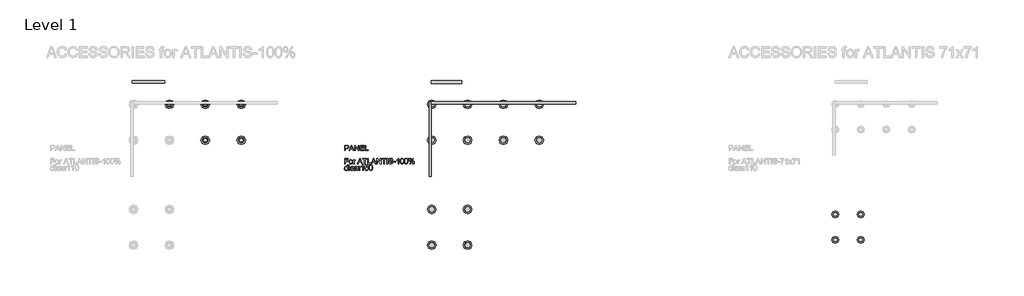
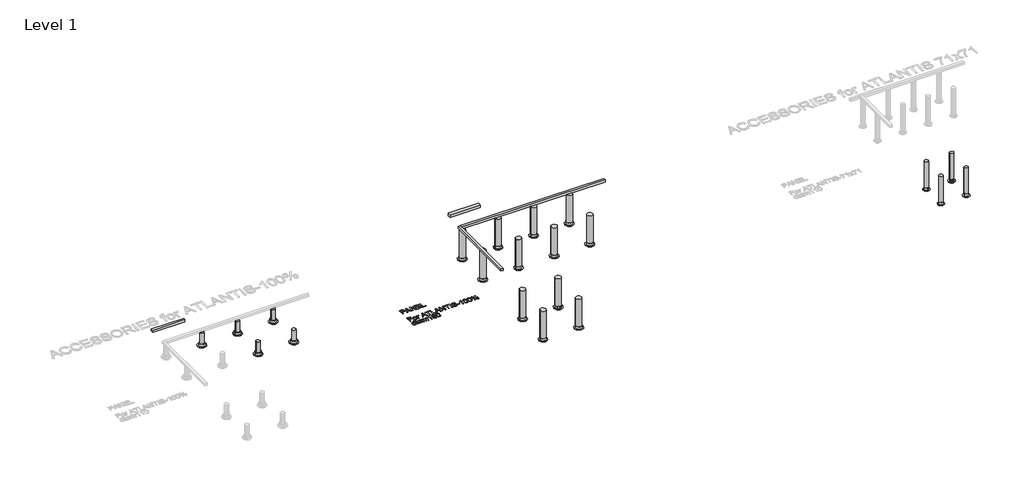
# One storey, part 2 of 6: 47 proxies.
"""IFC4 building model written with IfcOpenShell, lengths in millimetres."""

from ifc_helpers import new_model, si_unit, origin, origin_with_axes, place, context, project, spatial, polyline, outline, extrude, transform, mapped, element, save
from components import generic_models_6a19e57f, generic_models_13485cf7, generic_models_b2027c3c, generic_models_0d661f09, generic_models_739762aa, generic_models_06a1e233, generic_models_1072ffb0, generic_models_ee2e0081, generic_models_ce0de363

model = new_model("IFC4")

# Units and contexts
model_context = context("Model", 3, world=origin())
ifc_project = project(units=[si_unit("LENGTHUNIT", "METRE", prefix="MILLI")], contexts=[model_context])

# Site, building, storey
site = spatial("IfcSite", under=ifc_project)
building = spatial("IfcBuilding", under=site)
storey = spatial("IfcBuildingStorey", under=building, Name="Level 1", Elevation=0.0)

# Proxies
placement = place(None, origin())
generic_models_shape = generic_models_6a19e57f(model_context)
element("IfcBuildingElementProxy", 1, Name="Building Materials_Other_Accessory_PIPE BASE_for ATLANTIS : PIPE BASE_Ø110", ObjectType="Building Materials_Other_Accessory_PIPE BASE_for ATLANTIS : PIPE BASE_Ø110", at=placement, inside=storey, context=model_context, shape_type="MappedRepresentation", body=[
    mapped(generic_models_shape, transform((22257.4933821, -4273.7802575, 0.0), x_axis=(1.0, 0.0, 0.0), y_axis=(0.0, 1.0, 0.0), z_axis=(0.0, 0.0, 1.0))),
])
element("IfcBuildingElementProxy", 2, Name="Building Materials_Other_Accessory_PIPE BASE_for ATLANTIS : PIPE BASE_Ø110", ObjectType="Building Materials_Other_Accessory_PIPE BASE_for ATLANTIS : PIPE BASE_Ø110", at=placement, inside=storey, context=model_context, shape_type="MappedRepresentation", body=[
    mapped(generic_models_shape, transform((22967.4933821, -4273.7802575, 0.0), x_axis=(1.0, 0.0, 0.0), y_axis=(0.0, 1.0, 0.0), z_axis=(0.0, 0.0, 1.0))),
])
generic_models_2_shape = generic_models_13485cf7(model_context)
element("IfcBuildingElementProxy", 3, Name="Building Materials_Other_Accessory_PIPE BASE_for ATLANTIS : PIPE BASE_Ø160", ObjectType="Building Materials_Other_Accessory_PIPE BASE_for ATLANTIS : PIPE BASE_Ø160", at=placement, inside=storey, context=model_context, shape_type="MappedRepresentation", body=[
    mapped(generic_models_2_shape, transform((11020.4933821, -1201.7802575, 0.0), x_axis=(1.0, 0.0, 0.0), y_axis=(0.0, 1.0, 0.0), z_axis=(0.0, 0.0, 1.0))),
])
element("IfcBuildingElementProxy", 4, Name="Building Materials_Other_Accessory_PIPE BASE_for ATLANTIS : PIPE BASE_Ø160", ObjectType="Building Materials_Other_Accessory_PIPE BASE_for ATLANTIS : PIPE BASE_Ø160", at=placement, inside=storey, context=model_context, shape_type="MappedRepresentation", body=[
    mapped(generic_models_2_shape, transform((3720.4933821, -1201.7802575, 0.0), x_axis=(1.0, 0.0, 0.0), y_axis=(0.0, 1.0, 0.0), z_axis=(0.0, 0.0, 1.0))),
])
element("IfcBuildingElementProxy", 5, Name="Building Materials_Other_Accessory_PIPE BASE_for ATLANTIS : PIPE BASE_Ø160", ObjectType="Building Materials_Other_Accessory_PIPE BASE_for ATLANTIS : PIPE BASE_Ø160", at=placement, inside=storey, context=model_context, shape_type="MappedRepresentation", body=[
    mapped(generic_models_2_shape, transform((4720.4933821, -1201.7802575, 0.0), x_axis=(1.0, 0.0, 0.0), y_axis=(0.0, 1.0, 0.0), z_axis=(0.0, 0.0, 1.0))),
])
element("IfcBuildingElementProxy", 6, Name="Building Materials_Other_Accessory_PIPE BASE_for ATLANTIS : PIPE BASE_Ø160", ObjectType="Building Materials_Other_Accessory_PIPE BASE_for ATLANTIS : PIPE BASE_Ø160", at=placement, inside=storey, context=model_context, shape_type="MappedRepresentation", body=[
    mapped(generic_models_2_shape, transform((4720.4933821, -2201.7802575, 0.0), x_axis=(1.0, 0.0, 0.0), y_axis=(0.0, 1.0, 0.0), z_axis=(0.0, 0.0, 1.0))),
])
element("IfcBuildingElementProxy", 7, Name="Building Materials_Other_Accessory_PIPE BASE_for ATLANTIS : PIPE BASE_Ø160", ObjectType="Building Materials_Other_Accessory_PIPE BASE_for ATLANTIS : PIPE BASE_Ø160", at=placement, inside=storey, context=model_context, shape_type="MappedRepresentation", body=[
    mapped(generic_models_2_shape, transform((12020.4933821, -1201.7802575, 0.0), x_axis=(1.0, 0.0, 0.0), y_axis=(0.0, 1.0, 0.0), z_axis=(0.0, 0.0, 1.0))),
])
element("IfcBuildingElementProxy", 8, Name="Building Materials_Other_Accessory_PIPE BASE_for ATLANTIS : PIPE BASE_Ø160", ObjectType="Building Materials_Other_Accessory_PIPE BASE_for ATLANTIS : PIPE BASE_Ø160", at=placement, inside=storey, context=model_context, shape_type="MappedRepresentation", body=[
    mapped(generic_models_2_shape, transform((13020.4933821, -1201.7802575, 0.0), x_axis=(1.0, 0.0, 0.0), y_axis=(0.0, 1.0, 0.0), z_axis=(0.0, 0.0, 1.0))),
])
element("IfcBuildingElementProxy", 9, Name="Building Materials_Other_Accessory_PIPE BASE_for ATLANTIS : PIPE BASE_Ø160", ObjectType="Building Materials_Other_Accessory_PIPE BASE_for ATLANTIS : PIPE BASE_Ø160", at=placement, inside=storey, context=model_context, shape_type="MappedRepresentation", body=[
    mapped(generic_models_2_shape, transform((11020.4933821, -2201.7802575, 0.0), x_axis=(1.0, 0.0, 0.0), y_axis=(0.0, 1.0, 0.0), z_axis=(0.0, 0.0, 1.0))),
])
element("IfcBuildingElementProxy", 10, Name="Building Materials_Other_Accessory_PIPE BASE_for ATLANTIS : PIPE BASE_Ø160", ObjectType="Building Materials_Other_Accessory_PIPE BASE_for ATLANTIS : PIPE BASE_Ø160", at=placement, inside=storey, context=model_context, shape_type="MappedRepresentation", body=[
    mapped(generic_models_2_shape, transform((12020.4933821, -2201.7802575, 0.0), x_axis=(1.0, 0.0, 0.0), y_axis=(0.0, 1.0, 0.0), z_axis=(0.0, 0.0, 1.0))),
])
element("IfcBuildingElementProxy", 11, Name="Building Materials_Other_Accessory_PIPE BASE_for ATLANTIS : PIPE BASE_Ø160", ObjectType="Building Materials_Other_Accessory_PIPE BASE_for ATLANTIS : PIPE BASE_Ø160", at=placement, inside=storey, context=model_context, shape_type="MappedRepresentation", body=[
    mapped(generic_models_2_shape, transform((13020.4933821, -2201.7802575, 0.0), x_axis=(1.0, 0.0, 0.0), y_axis=(0.0, 1.0, 0.0), z_axis=(0.0, 0.0, 1.0))),
])
element("IfcBuildingElementProxy", 12, Name="Building Materials_Other_Accessory_PIPE BASE_for ATLANTIS : PIPE BASE_Ø160", ObjectType="Building Materials_Other_Accessory_PIPE BASE_for ATLANTIS : PIPE BASE_Ø160", at=placement, inside=storey, context=model_context, shape_type="MappedRepresentation", body=[
    mapped(generic_models_2_shape, transform((5720.4933821, -1201.7802575, 0.0), x_axis=(1.0, 0.0, 0.0), y_axis=(0.0, 1.0, 0.0), z_axis=(0.0, 0.0, 1.0))),
])
element("IfcBuildingElementProxy", 13, Name="Building Materials_Other_Accessory_PIPE BASE_for ATLANTIS : PIPE BASE_Ø160", ObjectType="Building Materials_Other_Accessory_PIPE BASE_for ATLANTIS : PIPE BASE_Ø160", at=placement, inside=storey, context=model_context, shape_type="MappedRepresentation", body=[
    mapped(generic_models_2_shape, transform((5720.4933821, -2201.7802575, 0.0), x_axis=(1.0, 0.0, 0.0), y_axis=(0.0, 1.0, 0.0), z_axis=(0.0, 0.0, 1.0))),
])
element("IfcBuildingElementProxy", 14, Name="Building Materials_Other_Accessory_PIPE BASE_for ATLANTIS : PIPE BASE_Ø160", ObjectType="Building Materials_Other_Accessory_PIPE BASE_for ATLANTIS : PIPE BASE_Ø160", at=placement, inside=storey, context=model_context, shape_type="MappedRepresentation", body=[
    mapped(generic_models_2_shape, transform((14020.4933821, -1201.7802575, 0.0), x_axis=(1.0, 0.0, 0.0), y_axis=(0.0, 1.0, 0.0), z_axis=(0.0, 0.0, 1.0))),
])
element("IfcBuildingElementProxy", 15, Name="Building Materials_Other_Accessory_PIPE BASE_for ATLANTIS : PIPE BASE_Ø160", ObjectType="Building Materials_Other_Accessory_PIPE BASE_for ATLANTIS : PIPE BASE_Ø160", at=placement, inside=storey, context=model_context, shape_type="MappedRepresentation", body=[
    mapped(generic_models_2_shape, transform((14020.4933821, -2201.7802575, 0.0), x_axis=(1.0, 0.0, 0.0), y_axis=(0.0, 1.0, 0.0), z_axis=(0.0, 0.0, 1.0))),
])
element("IfcBuildingElementProxy", 16, Name="Building Materials_Other_Accessory_PIPE BASE_for ATLANTIS : PIPE BASE_Ø160", ObjectType="Building Materials_Other_Accessory_PIPE BASE_for ATLANTIS : PIPE BASE_Ø160", at=placement, inside=storey, context=model_context, shape_type="MappedRepresentation", body=[
    mapped(generic_models_2_shape, transform((11020.4933821, -4128.7802575, 0.0), x_axis=(1.0, 0.0, 0.0), y_axis=(0.0, 1.0, 0.0), z_axis=(0.0, 0.0, 1.0))),
])
element("IfcBuildingElementProxy", 17, Name="Building Materials_Other_Accessory_PIPE BASE_for ATLANTIS : PIPE BASE_Ø160", ObjectType="Building Materials_Other_Accessory_PIPE BASE_for ATLANTIS : PIPE BASE_Ø160", at=placement, inside=storey, context=model_context, shape_type="MappedRepresentation", body=[
    mapped(generic_models_2_shape, transform((12020.4933821, -4128.7802575, 0.0), x_axis=(1.0, 0.0, 0.0), y_axis=(0.0, 1.0, 0.0), z_axis=(0.0, 0.0, 1.0))),
])
generic_models_3_shape = generic_models_b2027c3c(model_context)
element("IfcBuildingElementProxy", 18, Name="Building Materials_Other_Accessory_LEG_for ATLANTIS : LEG_Ø160", ObjectType="Building Materials_Other_Accessory_LEG_for ATLANTIS : LEG_Ø160", at=placement, inside=storey, context=model_context, shape_type="MappedRepresentation", body=[
    mapped(generic_models_3_shape, transform((11020.4933821, -1201.7802575, 0.0), x_axis=(1.0, 0.0, 0.0), y_axis=(0.0, 1.0, 0.0), z_axis=(0.0, 0.0, 1.0))),
])
element("IfcBuildingElementProxy", 19, Name="Building Materials_Other_Accessory_LEG_for ATLANTIS : LEG_Ø160", ObjectType="Building Materials_Other_Accessory_LEG_for ATLANTIS : LEG_Ø160", at=placement, inside=storey, context=model_context, shape_type="MappedRepresentation", body=[
    mapped(generic_models_3_shape, transform((12020.4933821, -1201.7802575, 0.0), x_axis=(1.0, 0.0, 0.0), y_axis=(0.0, 1.0, 0.0), z_axis=(0.0, 0.0, 1.0))),
])
element("IfcBuildingElementProxy", 20, Name="Building Materials_Other_Accessory_LEG_for ATLANTIS : LEG_Ø160", ObjectType="Building Materials_Other_Accessory_LEG_for ATLANTIS : LEG_Ø160", at=placement, inside=storey, context=model_context, shape_type="MappedRepresentation", body=[
    mapped(generic_models_3_shape, transform((13020.4933821, -1201.7802575, 0.0), x_axis=(1.0, 0.0, 0.0), y_axis=(0.0, 1.0, 0.0), z_axis=(0.0, 0.0, 1.0))),
])
element("IfcBuildingElementProxy", 21, Name="Building Materials_Other_Accessory_LEG_for ATLANTIS : LEG_Ø160", ObjectType="Building Materials_Other_Accessory_LEG_for ATLANTIS : LEG_Ø160", at=placement, inside=storey, context=model_context, shape_type="MappedRepresentation", body=[
    mapped(generic_models_3_shape, transform((11020.4933821, -2201.7802575, 0.0), x_axis=(1.0, 0.0, 0.0), y_axis=(0.0, 1.0, 0.0), z_axis=(0.0, 0.0, 1.0))),
])
element("IfcBuildingElementProxy", 22, Name="Building Materials_Other_Accessory_LEG_for ATLANTIS : LEG_Ø160", ObjectType="Building Materials_Other_Accessory_LEG_for ATLANTIS : LEG_Ø160", at=placement, inside=storey, context=model_context, shape_type="MappedRepresentation", body=[
    mapped(generic_models_3_shape, transform((12020.4933821, -2201.7802575, 0.0), x_axis=(1.0, 0.0, 0.0), y_axis=(0.0, 1.0, 0.0), z_axis=(0.0, 0.0, 1.0))),
])
element("IfcBuildingElementProxy", 23, Name="Building Materials_Other_Accessory_LEG_for ATLANTIS : LEG_Ø160", ObjectType="Building Materials_Other_Accessory_LEG_for ATLANTIS : LEG_Ø160", at=placement, inside=storey, context=model_context, shape_type="MappedRepresentation", body=[
    mapped(generic_models_3_shape, transform((13020.4933821, -2201.7802575, 0.0), x_axis=(1.0, 0.0, 0.0), y_axis=(0.0, 1.0, 0.0), z_axis=(0.0, 0.0, 1.0))),
])
element("IfcBuildingElementProxy", 24, Name="Building Materials_Other_Accessory_LEG_for ATLANTIS : LEG_Ø160", ObjectType="Building Materials_Other_Accessory_LEG_for ATLANTIS : LEG_Ø160", at=placement, inside=storey, context=model_context, shape_type="MappedRepresentation", body=[
    mapped(generic_models_3_shape, transform((14020.4933821, -1201.7802575, 0.0), x_axis=(1.0, 0.0, 0.0), y_axis=(0.0, 1.0, 0.0), z_axis=(0.0, 0.0, 1.0))),
])
element("IfcBuildingElementProxy", 25, Name="Building Materials_Other_Accessory_LEG_for ATLANTIS : LEG_Ø160", ObjectType="Building Materials_Other_Accessory_LEG_for ATLANTIS : LEG_Ø160", at=placement, inside=storey, context=model_context, shape_type="MappedRepresentation", body=[
    mapped(generic_models_3_shape, transform((14020.4933821, -2201.7802575, 0.0), x_axis=(1.0, 0.0, 0.0), y_axis=(0.0, 1.0, 0.0), z_axis=(0.0, 0.0, 1.0))),
])
element("IfcBuildingElementProxy", 26, Name="Building Materials_Other_Accessory_LEG_for ATLANTIS : LEG_Ø160", ObjectType="Building Materials_Other_Accessory_LEG_for ATLANTIS : LEG_Ø160", at=placement, inside=storey, context=model_context, shape_type="MappedRepresentation", body=[
    mapped(generic_models_3_shape, transform((11020.4933821, -4128.7802575, 0.0), x_axis=(1.0, 0.0, 0.0), y_axis=(0.0, 1.0, 0.0), z_axis=(0.0, 0.0, 1.0))),
])
element("IfcBuildingElementProxy", 27, Name="Building Materials_Other_Accessory_LEG_for ATLANTIS : LEG_Ø160", ObjectType="Building Materials_Other_Accessory_LEG_for ATLANTIS : LEG_Ø160", at=placement, inside=storey, context=model_context, shape_type="MappedRepresentation", body=[
    mapped(generic_models_3_shape, transform((12020.4933821, -5128.7802575, 0.0), x_axis=(-1.0, 0.0, 0.0), y_axis=(0.0, -1.0, 0.0), z_axis=(0.0, 0.0, 1.0))),
])
generic_models_4_shape = generic_models_0d661f09(model_context)
element("IfcBuildingElementProxy", 28, Name="Building Materials_Other_Accessory_LEG_for ATLANTIS : LEG_Ø110", ObjectType="Building Materials_Other_Accessory_LEG_for ATLANTIS : LEG_Ø110", at=placement, inside=storey, context=model_context, shape_type="MappedRepresentation", body=[
    mapped(generic_models_4_shape, transform((3720.4933821, -1201.7802575, 0.0), x_axis=(1.0, 0.0, 0.0), y_axis=(0.0, 1.0, 0.0), z_axis=(0.0, 0.0, 1.0))),
])
element("IfcBuildingElementProxy", 29, Name="Building Materials_Other_Accessory_LEG_for ATLANTIS : LEG_Ø110", ObjectType="Building Materials_Other_Accessory_LEG_for ATLANTIS : LEG_Ø110", at=placement, inside=storey, context=model_context, shape_type="MappedRepresentation", body=[
    mapped(generic_models_4_shape, transform((4720.4933821, -1201.7802575, 0.0), x_axis=(1.0, 0.0, 0.0), y_axis=(0.0, 1.0, 0.0), z_axis=(0.0, 0.0, 1.0))),
])
element("IfcBuildingElementProxy", 30, Name="Building Materials_Other_Accessory_LEG_for ATLANTIS : LEG_Ø110", ObjectType="Building Materials_Other_Accessory_LEG_for ATLANTIS : LEG_Ø110", at=placement, inside=storey, context=model_context, shape_type="MappedRepresentation", body=[
    mapped(generic_models_4_shape, transform((4720.4933821, -2201.7802575, 0.0), x_axis=(1.0, 0.0, 0.0), y_axis=(0.0, 1.0, 0.0), z_axis=(0.0, 0.0, 1.0))),
])
element("IfcBuildingElementProxy", 31, Name="Building Materials_Other_Accessory_LEG_for ATLANTIS : LEG_Ø110", ObjectType="Building Materials_Other_Accessory_LEG_for ATLANTIS : LEG_Ø110", at=placement, inside=storey, context=model_context, shape_type="MappedRepresentation", body=[
    mapped(generic_models_4_shape, transform((5720.4933821, -1201.7802575, 0.0), x_axis=(1.0, 0.0, 0.0), y_axis=(0.0, 1.0, 0.0), z_axis=(0.0, 0.0, 1.0))),
])
element("IfcBuildingElementProxy", 32, Name="Building Materials_Other_Accessory_LEG_for ATLANTIS : LEG_Ø110", ObjectType="Building Materials_Other_Accessory_LEG_for ATLANTIS : LEG_Ø110", at=placement, inside=storey, context=model_context, shape_type="MappedRepresentation", body=[
    mapped(generic_models_4_shape, transform((5720.4933821, -2201.7802575, 0.0), x_axis=(1.0, 0.0, 0.0), y_axis=(0.0, 1.0, 0.0), z_axis=(0.0, 0.0, 1.0))),
])
generic_models_5_shape = generic_models_739762aa(model_context)
element("IfcBuildingElementProxy", 33, Name="Building-Materials_Other_Daliform_Simple-Family_Accessory_PANEL_for ATLANTIS : PANEL_ATLANTIS-100_diam110_6.5x90x6.5", ObjectType="Building-Materials_Other_Daliform_Simple-Family_Accessory_PANEL_for ATLANTIS : PANEL_ATLANTIS-100_diam110_6.5x90x6.5", at=placement, inside=storey, context=model_context, shape_type="MappedRepresentation", body=[
    mapped(generic_models_5_shape, transform((11012.4933821, -1128.7802575, 880.0), x_axis=(1.0, 0.0, 0.0), y_axis=(0.0, 1.0, 0.0), z_axis=(0.0, 0.0, 1.0))),
])
generic_models_6_shape = generic_models_06a1e233(model_context)
element("IfcBuildingElementProxy", 34, Name="Building-Materials_Other_Daliform_Simple-Family_Accessory_PANEL_for ATLANTIS : PANEL_ATLANTIS-100_diam110_6.5x90x6.5", ObjectType="Building-Materials_Other_Daliform_Simple-Family_Accessory_PANEL_for ATLANTIS : PANEL_ATLANTIS-100_diam110_6.5x90x6.5", at=placement, inside=storey, context=model_context, shape_type="MappedRepresentation", body=[
    mapped(generic_models_6_shape, transform((2687.4933821, -543.7802575, 380.0), x_axis=(1.0, 0.0, 0.0), y_axis=(0.0, 1.0, 0.0), z_axis=(0.0, 0.0, 1.0))),
])
generic_models_7_shape = generic_models_1072ffb0(model_context)
element("IfcBuildingElementProxy", 35, Name="Building-Materials_Other_Daliform_Simple-Family_Accessory_PANEL_for ATLANTIS : PANEL_ATLANTIS-100_diam110_6.5x90x6.5", ObjectType="Building-Materials_Other_Daliform_Simple-Family_Accessory_PANEL_for ATLANTIS : PANEL_ATLANTIS-100_diam110_6.5x90x6.5", at=placement, inside=storey, context=model_context, shape_type="MappedRepresentation", body=[
    mapped(generic_models_7_shape, transform((11012.4933821, -1128.7802575, 880.0), x_axis=(0.0, -1.0, 0.0), y_axis=(1.0, 0.0, 0.0), z_axis=(0.0, 0.0, 1.0))),
])
generic_models_8_shape = generic_models_ee2e0081(model_context)
element("IfcBuildingElementProxy", 36, Name="Building-Materials_Other_Daliform_Simple-Family_Accessory_PANEL_for ATLANTIS : PANEL_ATLANTIS-100_diam160_8.5x85x8.5", ObjectType="Building-Materials_Other_Daliform_Simple-Family_Accessory_PANEL_for ATLANTIS : PANEL_ATLANTIS-100_diam160_8.5x85x8.5", at=placement, inside=storey, context=model_context, shape_type="MappedRepresentation", body=[
    mapped(generic_models_8_shape, transform((11012.4933821, -543.7802575, 880.0), x_axis=(1.0, 0.0, 0.0), y_axis=(0.0, 1.0, 0.0), z_axis=(0.0, 0.0, 1.0))),
])
generic_models_9_shape = generic_models_ce0de363(model_context)
element("IfcBuildingElementProxy", 37, Name="Building Materials_Other_Accessory_LEG_for ATLANTIS : LEG_Ø110", ObjectType="Building Materials_Other_Accessory_LEG_for ATLANTIS : LEG_Ø110", at=placement, inside=storey, context=model_context, shape_type="MappedRepresentation", body=[
    mapped(generic_models_9_shape, transform((22257.4933821, -4273.7802575, 0.0), x_axis=(1.0, 0.0, 0.0), y_axis=(0.0, 1.0, 0.0), z_axis=(0.0, 0.0, 1.0))),
])
element("IfcBuildingElementProxy", 38, Name="Building Materials_Other_Accessory_LEG_for ATLANTIS : LEG_Ø110", ObjectType="Building Materials_Other_Accessory_LEG_for ATLANTIS : LEG_Ø110", at=placement, inside=storey, context=model_context, shape_type="MappedRepresentation", body=[
    mapped(generic_models_9_shape, transform((22967.4933821, -4983.7802575, 0.0), x_axis=(-1.0, 0.0, 0.0), y_axis=(0.0, -1.0, 0.0), z_axis=(0.0, 0.0, 1.0))),
])
element("IfcBuildingElementProxy", 39, Name="Building Materials_Other_Accessory_LEG_for ATLANTIS : LEG_Ø110", ObjectType="Building Materials_Other_Accessory_LEG_for ATLANTIS : LEG_Ø110", at=placement, inside=storey, context=model_context, shape_type="MappedRepresentation", body=[
    mapped(generic_models_9_shape, transform((22967.4933821, -4273.7802575, 0.0), x_axis=(-1.0, 0.0, 0.0), y_axis=(0.0, -1.0, 0.0), z_axis=(0.0, 0.0, 1.0))),
])
element("IfcBuildingElementProxy", 40, Name="Building Materials_Other_Accessory_LEG_for ATLANTIS : LEG_Ø110", ObjectType="Building Materials_Other_Accessory_LEG_for ATLANTIS : LEG_Ø110", at=placement, inside=storey, context=model_context, shape_type="MappedRepresentation", body=[
    mapped(generic_models_9_shape, transform((22257.4933821, -4983.7802575, 0.0), x_axis=(1.0, 0.0, 0.0), y_axis=(0.0, 1.0, 0.0), z_axis=(0.0, 0.0, 1.0))),
])
element("IfcBuildingElementProxy", 41, Name="Building Materials_Other_Accessory_PIPE BASE_for ATLANTIS : PIPE BASE_Ø110", ObjectType="Building Materials_Other_Accessory_PIPE BASE_for ATLANTIS : PIPE BASE_Ø110", at=placement, inside=storey, context=model_context, shape_type="MappedRepresentation", body=[
    mapped(generic_models_shape, transform((22257.4933821, -4983.7802575, 0.0), x_axis=(1.0, 0.0, 0.0), y_axis=(0.0, 1.0, 0.0), z_axis=(0.0, 0.0, 1.0))),
])
element("IfcBuildingElementProxy", 42, Name="Building Materials_Other_Accessory_PIPE BASE_for ATLANTIS : PIPE BASE_Ø110", ObjectType="Building Materials_Other_Accessory_PIPE BASE_for ATLANTIS : PIPE BASE_Ø110", at=placement, inside=storey, context=model_context, shape_type="MappedRepresentation", body=[
    mapped(generic_models_shape, transform((22967.4933821, -4983.7802575, 0.0), x_axis=(1.0, 0.0, 0.0), y_axis=(0.0, 1.0, 0.0), z_axis=(0.0, 0.0, 1.0))),
])
element("IfcBuildingElementProxy", 43, Name="Building Materials_Other_Accessory_LEG_for ATLANTIS : LEG_Ø160", ObjectType="Building Materials_Other_Accessory_LEG_for ATLANTIS : LEG_Ø160", at=placement, inside=storey, context=model_context, shape_type="MappedRepresentation", body=[
    mapped(generic_models_3_shape, transform((12020.4933821, -4128.7802575, 0.0), x_axis=(-1.0, 0.0, 0.0), y_axis=(0.0, -1.0, 0.0), z_axis=(0.0, 0.0, 1.0))),
])
element("IfcBuildingElementProxy", 44, Name="Building Materials_Other_Accessory_LEG_for ATLANTIS : LEG_Ø160", ObjectType="Building Materials_Other_Accessory_LEG_for ATLANTIS : LEG_Ø160", at=placement, inside=storey, context=model_context, shape_type="MappedRepresentation", body=[
    mapped(generic_models_3_shape, transform((11020.4933821, -5128.7802575, 0.0), x_axis=(1.0, 0.0, 0.0), y_axis=(0.0, 1.0, 0.0), z_axis=(0.0, 0.0, 1.0))),
])
element("IfcBuildingElementProxy", 45, Name="Building Materials_Other_Accessory_PIPE BASE_for ATLANTIS : PIPE BASE_Ø160", ObjectType="Building Materials_Other_Accessory_PIPE BASE_for ATLANTIS : PIPE BASE_Ø160", at=placement, inside=storey, context=model_context, shape_type="MappedRepresentation", body=[
    mapped(generic_models_2_shape, transform((12020.4933821, -5128.7802575, 0.0), x_axis=(1.0, 0.0, 0.0), y_axis=(0.0, 1.0, 0.0), z_axis=(0.0, 0.0, 1.0))),
])
element("IfcBuildingElementProxy", 46, Name="Building Materials_Other_Accessory_PIPE BASE_for ATLANTIS : PIPE BASE_Ø160", ObjectType="Building Materials_Other_Accessory_PIPE BASE_for ATLANTIS : PIPE BASE_Ø160", at=placement, inside=storey, context=model_context, shape_type="MappedRepresentation", body=[
    mapped(generic_models_2_shape, transform((11020.4933821, -5128.7802575, 0.0), x_axis=(1.0, 0.0, 0.0), y_axis=(0.0, 1.0, 0.0), z_axis=(0.0, 0.0, 1.0))),
])
element("IfcBuildingElementProxy", 47, Name="150mm Arial", ObjectType="150mm Arial", at=placement, inside=storey, context=model_context, shape_type="SweptSolid", body=[
    extrude(outline(polyline([(8600.957166, -2493.8180308), (8600.957166, -2343.1335656), (8656.8016528, -2343.1335656), (8679.3160309, -2344.5683053), (8697.6181602, -2351.6132455), (8709.4823545, -2366.1813725), (8713.9705149, -2386.727582), (8710.9400869, -2404.4870853), (8701.8488031, -2419.2851386), (8684.8480564, -2429.2731347), (8658.0892398, -2432.6024668), (8619.7927241, -2432.6024668), (8619.7927241, -2493.8180308), (8600.957166, -2493.8180308)]), holes=[polyline([(8619.7927241, -2413.7669086), (8659.1928858, -2413.7669086), (8675.8947284, -2412.0378632), (8686.9311882, -2406.8507271), (8693.0840146, -2398.527397), (8695.1349567, -2387.3897696), (8690.2973085, -2371.791573), (8677.5869856, -2363.2567107), (8658.7514274, -2361.9691237), (8619.7927241, -2361.9691237), (8619.7927241, -2413.7669086)])]), origin_with_axes(), (0.0, 0.0, 1.0), 5.0),
    extrude(outline(polyline([(8722.3214362, -2493.8180308), (8782.4701424, -2343.1335656), (8798.5097974, -2343.1335656), (8858.6585036, -2493.8180308), (8838.7560876, -2493.8180308), (8821.5024221, -2446.7291354), (8759.4407295, -2446.7291354), (8742.2238521, -2493.8180308), (8722.3214362, -2493.8180308)]), holes=[polyline([(8766.356911, -2427.8935772), (8814.6230288, -2427.8935772), (8801.0481831, -2390.8478603), (8790.4899699, -2361.9691237), (8781.108979, -2387.6104988), (8766.356911, -2427.8935772)])]), origin_with_axes(), (0.0, 0.0, 1.0), 5.0),
    extrude(outline(polyline([(8878.7816487, -2493.8180308), (8878.7816487, -2343.1335656), (8898.9415821, -2343.1335656), (8977.668329, -2462.511273), (8977.668329, -2343.1335656), (8996.5038872, -2343.1335656), (8996.5038872, -2493.8180308), (8976.3439538, -2493.8180308), (8897.6172069, -2374.4035351), (8897.6172069, -2493.8180308), (8878.7816487, -2493.8180308)])), origin_with_axes(), (0.0, 0.0, 1.0), 5.0),
    extrude(outline(polyline([(9029.4661139, -2493.8180308), (9029.4661139, -2343.1335656), (9137.7705733, -2343.1335656), (9137.7705733, -2361.9691237), (9048.3016721, -2361.9691237), (9048.3016721, -2406.7035743), (9133.0616838, -2406.7035743), (9133.0616838, -2425.5391325), (9048.3016721, -2425.5391325), (9048.3016721, -2474.9824726), (9140.1250181, -2474.9824726), (9140.1250181, -2493.8180308), (9029.4661139, -2493.8180308)])), origin_with_axes(), (0.0, 0.0, 1.0), 5.0),
    extrude(outline(polyline([(9168.3783553, -2493.8180308), (9168.3783553, -2343.1335656), (9187.2139135, -2343.1335656), (9187.2139135, -2474.9824726), (9262.5561461, -2474.9824726), (9262.5561461, -2493.8180308), (9168.3783553, -2493.8180308)])), origin_with_axes(), (0.0, 0.0, 1.0), 5.0),
    extrude(outline(polyline([(8600.957166, -2859.7424843), (8600.957166, -2709.0580191), (8702.198291, -2709.0580191), (8702.198291, -2727.8935772), (8619.7927241, -2727.8935772), (8619.7927241, -2772.6280279), (8690.4260672, -2772.6280279), (8690.4260672, -2791.463586), (8619.7927241, -2791.463586), (8619.7927241, -2859.7424843), (8600.957166, -2859.7424843)])), origin_with_axes(), (0.0, 0.0, 1.0), 5.0),
    extrude(outline(polyline([(8721.0338492, -2804.4130322), (8725.1081423, -2777.7323905), (8737.3310216, -2758.9796058), (8752.4325775, -2749.791753), (8770.5139775, -2746.7291354), (8790.3014304, -2750.4585391), (8806.1065606, -2761.6467503), (8816.4670373, -2779.4108521), (8819.9205295, -2802.8679279), (8818.3938192, -2821.8966241), (8813.8136884, -2836.3819776), (8806.3134942, -2847.229898), (8796.0265939, -2855.3462945), (8783.8083131, -2860.4092704), (8770.5139775, -2862.0969291), (8750.4874014, -2858.3813209), (8734.7006653, -2847.2344965), (8724.4505532, -2829.0979141), (8721.0338492, -2804.4130322)]), holes=[polyline([(8739.8694073, -2804.376244), (8742.0491082, -2821.422976), (8748.5882106, -2833.5676804), (8758.429054, -2840.8379483), (8770.5139775, -2843.2613709), (8782.5437188, -2840.8241527), (8792.3661681, -2833.5124981), (8798.9052705, -2821.2068453), (8801.0849713, -2803.7876328), (8798.8914749, -2787.2375416), (8792.3109858, -2775.2583841), (8782.4747409, -2767.9881162), (8770.5139775, -2765.5646935), (8758.429054, -2767.9789191), (8748.5882106, -2775.2215959), (8742.0491082, -2787.3387091), (8739.8694073, -2804.376244)])]), origin_with_axes(), (0.0, 0.0, 1.0), 5.0),
    extrude(outline(polyline([(8841.1105324, -2859.7424843), (8841.1105324, -2749.0835802), (8857.5916458, -2749.0835802), (8857.5916458, -2765.4543289), (8869.2902932, -2750.3711671), (8881.0625171, -2746.7291354), (8899.9716516, -2752.5416709), (8893.6808695, -2769.4274545), (8880.4371177, -2765.5646935), (8869.7869339, -2769.2803017), (8862.9995111, -2779.5809976), (8859.9460906, -2801.5803409), (8859.9460906, -2859.7424843), (8841.1105324, -2859.7424843)])), origin_with_axes(), (0.0, 0.0, 1.0), 5.0),
    extrude(outline(polyline([(8955.4114683, -2859.7424843), (9015.5601745, -2709.0580191), (9031.5998295, -2709.0580191), (9091.7485357, -2859.7424843), (9071.8461198, -2859.7424843), (9054.5924542, -2812.6535889), (8992.5307616, -2812.6535889), (8975.3138843, -2859.7424843), (8955.4114683, -2859.7424843)]), holes=[polyline([(8999.4469431, -2793.8180308), (9047.7130609, -2793.8180308), (9034.1382153, -2756.7723139), (9023.580002, -2727.8935772), (9014.1990111, -2753.5349523), (8999.4469431, -2793.8180308)])]), origin_with_axes(), (0.0, 0.0, 1.0), 5.0),
    extrude(outline(polyline([(9149.5427972, -2859.7424843), (9149.5427972, -2727.8935772), (9100.099457, -2727.8935772), (9100.099457, -2709.0580191), (9217.8216955, -2709.0580191), (9217.8216955, -2727.8935772), (9168.3783553, -2727.8935772), (9168.3783553, -2859.7424843), (9149.5427972, -2859.7424843)])), origin_with_axes(), (0.0, 0.0, 1.0), 5.0),
    extrude(outline(polyline([(9239.0116984, -2859.7424843), (9239.0116984, -2709.0580191), (9257.8472566, -2709.0580191), (9257.8472566, -2840.9069262), (9333.1894892, -2840.9069262), (9333.1894892, -2859.7424843), (9239.0116984, -2859.7424843)])), origin_with_axes(), (0.0, 0.0, 1.0), 5.0),
    extrude(outline(polyline([(9336.8315209, -2859.7424843), (9396.9802271, -2709.0580191), (9413.0198821, -2709.0580191), (9473.1685883, -2859.7424843), (9453.2661724, -2859.7424843), (9436.0125068, -2812.6535889), (9373.9508142, -2812.6535889), (9356.7339369, -2859.7424843), (9336.8315209, -2859.7424843)]), holes=[polyline([(9380.8669957, -2793.8180308), (9429.1331135, -2793.8180308), (9415.5582679, -2756.7723139), (9405.0000546, -2727.8935772), (9395.6190637, -2753.5349523), (9380.8669957, -2793.8180308)])]), origin_with_axes(), (0.0, 0.0, 1.0), 5.0),
    extrude(outline(polyline([(9493.2917335, -2859.7424843), (9493.2917335, -2709.0580191), (9513.4516668, -2709.0580191), (9592.1784138, -2828.4357265), (9592.1784138, -2709.0580191), (9611.0139719, -2709.0580191), (9611.0139719, -2859.7424843), (9590.8540386, -2859.7424843), (9512.1272916, -2740.3279887), (9512.1272916, -2859.7424843), (9493.2917335, -2859.7424843)])), origin_with_axes(), (0.0, 0.0, 1.0), 5.0),
    extrude(outline(polyline([(9681.647315, -2859.7424843), (9681.647315, -2727.8935772), (9632.2039748, -2727.8935772), (9632.2039748, -2709.0580191), (9749.9262133, -2709.0580191), (9749.9262133, -2727.8935772), (9700.4828732, -2727.8935772), (9700.4828732, -2859.7424843), (9681.647315, -2859.7424843)])), origin_with_axes(), (0.0, 0.0, 1.0), 5.0),
    extrude(outline(polyline([(9773.470661, -2859.7424843), (9773.470661, -2709.0580191), (9792.3062191, -2709.0580191), (9792.3062191, -2859.7424843), (9773.470661, -2859.7424843)])), origin_with_axes(), (0.0, 0.0, 1.0), 5.0),
    extrude(outline(polyline([(9822.9140011, -2807.9446994), (9841.7495593, -2807.9446994), (9847.8196122, -2826.7986516), (9862.6452566, -2838.7180283), (9885.2332111, -2843.2613709), (9904.9148979, -2839.8216743), (9917.6252208, -2830.367107), (9921.8006814, -2817.7303605), (9918.6736845, -2805.9765307), (9905.8713911, -2797.4232743), (9878.4457883, -2790.2311813), (9848.9232582, -2780.9421609), (9832.9019973, -2766.9258569), (9827.6228907, -2748.2006634), (9829.255367, -2737.168802), (9834.1527961, -2726.8819018), (9842.1864192, -2718.1630985), (9853.2274775, -2711.8355282), (9881.149721, -2706.7035743), (9910.9481626, -2712.0746514), (9922.3708985, -2718.7057244), (9930.8137903, -2727.856789), (9936.1572763, -2738.9576282), (9938.2817948, -2751.4380249), (9919.4462367, -2751.4380249), (9915.9881459, -2740.19923), (9908.7776588, -2732.087432), (9897.5112727, -2727.1762073), (9881.885485, -2725.5391325), (9865.8918152, -2727.1578132), (9854.9197347, -2732.0138556), (9848.5737703, -2739.1599633), (9846.4584488, -2747.6488404), (9847.957568, -2754.8869186), (9852.4549254, -2760.7086512), (9883.2098602, -2771.2300763), (9916.5399689, -2780.6846435), (9927.2775247, -2787.5180516), (9934.7685218, -2795.9517463), (9939.1693101, -2805.8937573), (9940.6362396, -2817.2521139), (9938.9485809, -2828.8633893), (9933.885605, -2839.7848861), (9925.6542453, -2849.1842711), (9914.4614356, -2856.2292113), (9901.0015531, -2860.6299996), (9885.9689751, -2862.0969291), (9867.5150945, -2860.5150365), (9852.3261667, -2855.7693588), (9840.2274475, -2847.8415018), (9831.0441932, -2836.7130714), (9825.1488843, -2823.1566199), (9822.9140011, -2807.9446994)])), origin_with_axes(), (0.0, 0.0, 1.0), 5.0),
    extrude(outline(polyline([(9957.117353, -2815.0080337), (9957.117353, -2796.1724755), (10015.9784722, -2796.1724755), (10015.9784722, -2815.0080337), (9957.117353, -2815.0080337)])), origin_with_axes(), (0.0, 0.0, 1.0), 5.0),
    extrude(outline(polyline([(10103.0929287, -2859.7424843), (10084.2573705, -2859.7424843), (10084.2573705, -2742.3145515), (10066.4150938, -2755.0248744), (10046.5862542, -2764.534624), (10046.5862542, -2746.7291354), (10074.195798, -2729.1075878), (10090.9528228, -2709.0580191), (10103.0929287, -2709.0580191), (10103.0929287, -2859.7424843)])), origin_with_axes(), (0.0, 0.0, 1.0), 5.0),
    extrude(outline(polyline([(10147.8273793, -2785.6142623), (10149.2115353, -2761.494999), (10153.3640033, -2742.2593692), (10160.2433966, -2727.6130672), (10169.8083285, -2717.2617876), (10182.1277768, -2711.1089612), (10197.2707194, -2709.0580191), (10219.2700627, -2713.9140614), (10234.4635891, -2727.9119713), (10243.292757, -2750.2056202), (10246.7140596, -2785.6142623), (10245.3436992, -2809.5955698), (10241.2326179, -2828.7852144), (10234.3946113, -2843.4453119), (10224.843475, -2853.8379783), (10212.4964355, -2860.0321914), (10197.2707194, -2862.0969291), (10177.6993973, -2858.5100796), (10162.8369647, -2847.7495313), (10151.5797756, -2822.2645061), (10147.8273793, -2785.6142623)]), holes=[polyline([(10166.6629374, -2785.5774741), (10168.8702294, -2815.2057703), (10175.4921053, -2832.3536698), (10185.3513428, -2840.5344456), (10197.2707194, -2843.2613709), (10209.1900961, -2840.5252486), (10219.0493336, -2832.3168816), (10225.6712095, -2815.159785), (10227.8785014, -2785.5774741), (10225.7447859, -2756.615964), (10219.3436391, -2739.3347073), (10209.5027958, -2730.7538598), (10197.0499902, -2727.8935772), (10185.2593723, -2730.4135689), (10175.7864109, -2737.9735439), (10168.9438058, -2756.3308555), (10166.6629374, -2785.5774741)])]), origin_with_axes(), (0.0, 0.0, 1.0), 5.0),
    extrude(outline(polyline([(10263.195173, -2785.6142623), (10264.579329, -2761.494999), (10268.731797, -2742.2593692), (10275.6111903, -2727.6130672), (10285.1761222, -2717.2617876), (10297.4955705, -2711.1089612), (10312.6385131, -2709.0580191), (10334.6378564, -2713.9140614), (10349.8313828, -2727.9119713), (10358.6605507, -2750.2056202), (10362.0818533, -2785.6142623), (10360.7114928, -2809.5955698), (10356.6004115, -2828.7852144), (10349.762405, -2843.4453119), (10340.2112687, -2853.8379783), (10327.8642292, -2860.0321914), (10312.6385131, -2862.0969291), (10293.067191, -2858.5100796), (10278.2047584, -2847.7495313), (10266.9475693, -2822.2645061), (10263.195173, -2785.6142623)]), holes=[polyline([(10282.0307311, -2785.5774741), (10284.2380231, -2815.2057703), (10290.859899, -2832.3536698), (10300.7191365, -2840.5344456), (10312.6385131, -2843.2613709), (10324.5578898, -2840.5252486), (10334.4171272, -2832.3168816), (10341.0390032, -2815.159785), (10343.2462951, -2785.5774741), (10341.1125796, -2756.615964), (10334.7114328, -2739.3347073), (10324.8705895, -2730.7538598), (10312.4177839, -2727.8935772), (10300.627166, -2730.4135689), (10291.1542046, -2737.9735439), (10284.3115995, -2756.3308555), (10282.0307311, -2785.5774741)])]), origin_with_axes(), (0.0, 0.0, 1.0), 5.0),
    extrude(outline(polyline([(10380.9174114, -2745.6622776), (10382.8441934, -2730.6526922), (10388.6245392, -2718.071128), (10398.0653109, -2709.5454627), (10410.9733704, -2706.7035743), (10423.3066143, -2709.2465586), (10433.3038075, -2716.8755115), (10439.9256835, -2729.4340831), (10442.1329754, -2746.7659236), (10439.8980923, -2763.7896629), (10433.1934429, -2776.3804242), (10423.2238409, -2784.1611284), (10411.1940996, -2786.7546965), (10399.2931171, -2784.1979166), (10389.5626383, -2776.527577), (10383.0787182, -2763.6976924), (10380.9174114, -2745.6622776)]), holes=[polyline([(10411.4884052, -2720.8302429), (10399.7345755, -2726.5324139), (10396.2167039, -2734.6166207), (10395.04408, -2747.4648994), (10396.2304995, -2759.27851), (10399.7897578, -2766.9810392), (10411.4884052, -2772.6280279), (10423.3158114, -2766.9258569), (10426.833683, -2758.8692412), (10428.0063068, -2746.103736), (10426.8198874, -2734.207352), (10423.2606291, -2726.4772316), (10411.4884052, -2720.8302429)])]), origin_with_axes(), (0.0, 0.0, 1.0), 5.0),
    extrude(outline(polyline([(10411.5619816, -2862.0969291), (10495.0711945, -2706.7035743), (10510.7797557, -2706.7035743), (10427.2705428, -2862.0969291), (10411.5619816, -2862.0969291)])), origin_with_axes(), (0.0, 0.0, 1.0), 5.0),
    extrude(outline(polyline([(10479.8040917, -2821.0045102), (10481.7308737, -2805.9259469), (10487.5112195, -2793.3581783), (10496.9703853, -2784.8738998), (10509.9336271, -2782.0458069), (10522.2116887, -2784.5887912), (10532.1904878, -2792.2177441), (10538.8123638, -2804.7763157), (10541.0196557, -2822.1081562), (10538.7893711, -2839.1318955), (10532.0985173, -2851.7226568), (10522.1151197, -2859.503361), (10510.0072035, -2862.0969291), (10498.1384107, -2859.5263536), (10488.4309245, -2851.8146273), (10481.9607999, -2838.9709472), (10479.8040917, -2821.0045102)]), holes=[polyline([(10510.4118737, -2796.1724755), (10498.6028617, -2801.8746465), (10495.0987857, -2809.9588533), (10493.9307603, -2822.807132), (10495.1125813, -2834.5517647), (10498.658044, -2842.2680895), (10510.3015091, -2847.9702605), (10522.2208858, -2842.2680895), (10525.7249618, -2834.2114738), (10526.8929871, -2821.4459686), (10525.7111662, -2809.5495846), (10522.1657035, -2801.8194642), (10510.4118737, -2796.1724755)])]), origin_with_axes(), (0.0, 0.0, 1.0), 5.0),
    extrude(outline(polyline([(8666.8816195, -3042.7047111), (8666.8816195, -3024.9360107), (8654.4196169, -3040.0283696), (8637.1935425, -3045.0591558), (8625.0166485, -3043.23814), (8613.869824, -3037.7750923), (8604.4336508, -3029.0516905), (8597.3887106, -3017.4496121), (8593.0017178, -3003.4379066), (8591.5393869, -2987.4856236), (8596.9288581, -2957.503241), (8603.6610986, -2945.6114555), (8613.0788777, -2936.8650611), (8624.469424, -2931.4847869), (8637.1199661, -2929.6913622), (8654.4839963, -2934.823316), (8666.8816195, -2948.1590383), (8666.8816195, -2892.0202459), (8685.7171777, -2892.0202459), (8685.7171777, -3042.7047111), (8666.8816195, -3042.7047111)]), holes=[polyline([(8610.374945, -2987.4120472), (8612.4994636, -3004.4495821), (8618.8730191, -3016.5666953), (8628.1344484, -3023.8093721), (8638.9225879, -3026.2235977), (8649.7061289, -3023.9197367), (8658.7330333, -3017.0081537), (8664.844473, -3005.36009), (8666.8816195, -2988.846787), (8664.8076848, -2970.7929781), (8658.5858805, -2958.2757932), (8649.3290498, -2950.9641385), (8638.1500357, -2948.5269203), (8627.2515316, -2950.8675695), (8618.3211961, -2957.8895171), (8612.3615078, -2969.951448), (8610.374945, -2987.4120472)])]), origin_with_axes(), (0.0, 0.0, 1.0), 5.0),
    extrude(outline(polyline([(8713.9705149, -2910.855804), (8713.9705149, -2892.0202459), (8732.806073, -2892.0202459), (8732.806073, -2910.855804), (8713.9705149, -2910.855804)])), origin_with_axes(), (0.0, 0.0, 1.0), 5.0),
    extrude(outline(polyline([(8713.9705149, -3042.7047111), (8713.9705149, -2932.0458069), (8732.806073, -2932.0458069), (8732.806073, -3042.7047111), (8713.9705149, -3042.7047111)])), origin_with_axes(), (0.0, 0.0, 1.0), 5.0),
    extrude(outline(polyline([(8831.6927533, -3028.5780425), (8813.4274123, -3041.3435477), (8793.2490848, -3045.0591558), (8777.508334, -3042.8242727), (8765.8970585, -3036.1196234), (8758.7371552, -3025.9384891), (8756.3505207, -3013.2741515), (8759.9557643, -2998.3749307), (8769.4287257, -2987.5592), (8782.6172952, -2981.3787825), (8798.9144676, -2978.5460911), (8831.5823887, -2972.071368), (8831.6927533, -2967.8775133), (8830.3959693, -2959.4714097), (8826.5056172, -2953.9715738), (8817.805208, -2949.8880837), (8805.6834963, -2948.5269203), (8786.6272089, -2952.150558), (8777.5405237, -2965.0080337), (8758.7049655, -2962.6535889), (8766.8535517, -2944.2594892), (8783.2610887, -2933.4805467), (8808.1115174, -2929.6913622), (8830.9385953, -2933.0390883), (8843.8328592, -2941.4451919), (8849.6086065, -2954.2290912), (8850.5283115, -2970.7102046), (8850.5283115, -2994.1442877), (8851.4848047, -3026.8673912), (8855.237201, -3042.7047111), (8836.4016429, -3042.7047111), (8831.6927533, -3028.5780425)]), holes=[polyline([(8831.6927533, -2990.9069262), (8801.3057005, -2996.6826735), (8785.1004987, -2999.736094), (8777.7612528, -3004.702501), (8775.1860789, -3011.9497763), (8780.7962793, -3022.1401075), (8797.2589986, -3026.2235977), (8816.3152859, -3021.7170433), (8828.6025446, -3010.8093421), (8831.5823887, -2996.2412151), (8831.6927533, -2990.9069262)])]), origin_with_axes(), (0.0, 0.0, 1.0), 5.0),
    extrude(outline(polyline([(8876.427204, -3042.7047111), (8876.427204, -2932.0458069), (8895.2627621, -2932.0458069), (8895.2627621, -2950.2559657), (8908.2122083, -2935.3383508), (8926.6430963, -2929.6913622), (8937.1185361, -2931.1307005), (8945.5154426, -2935.4487154), (8955.8897149, -2951.5803409), (8970.5866006, -2935.1636068), (8989.1462473, -2929.6913622), (9003.3051056, -2931.967632), (9013.7759469, -2938.7964415), (9020.2460714, -2950.3617318), (9022.4027796, -2966.8474437), (9022.4027796, -3042.7047111), (9003.5672215, -3042.7047111), (9003.5672215, -2974.9408476), (9001.819782, -2959.2138923), (8995.4922117, -2951.4699763), (8984.7316633, -2948.5269203), (8974.5275365, -2950.4123155), (8966.2088049, -2956.0685012), (8960.6767794, -2965.8817534), (8958.8327709, -2980.2383483), (8958.8327709, -3042.7047111), (8939.9972127, -3042.7047111), (8939.9972127, -2972.8439202), (8935.6378111, -2954.5969732), (8929.8850564, -2950.0444335), (8921.3455956, -2948.5269203), (8907.4028679, -2952.5736223), (8898.1322417, -2964.4194225), (8895.2627621, -2986.8970124), (8895.2627621, -3042.7047111), (8876.427204, -3042.7047111)])), origin_with_axes(), (0.0, 0.0, 1.0), 5.0),
    extrude(outline(polyline([(9116.5805704, -3042.7047111), (9097.7450123, -3042.7047111), (9097.7450123, -2925.2767782), (9079.9027355, -2937.9871012), (9060.0738959, -2947.4968507), (9060.0738959, -2929.6913622), (9087.6834397, -2912.0698146), (9104.4404646, -2892.0202459), (9116.5805704, -2892.0202459), (9116.5805704, -3042.7047111)])), origin_with_axes(), (0.0, 0.0, 1.0), 5.0),
    extrude(outline(polyline([(9257.8472566, -2932.0458069), (9239.0116984, -2934.4002517), (9231.8747877, -2918.6916905), (9223.3307284, -2912.8147756), (9213.0024413, -2910.855804), (9196.0062932, -2915.4175407), (9183.1488174, -2932.5424476), (9179.2446698, -2946.5725472), (9177.7961344, -2966.1116797), (9194.4060065, -2951.0837002), (9214.9890041, -2946.1724755), (9232.3898225, -2949.5293988), (9246.9947377, -2959.6001684), (9256.8999604, -2974.9868328), (9260.2017013, -2994.2914405), (9258.6473999, -3007.7789142), (9253.9844956, -3020.2823035), (9246.5992646, -3030.886502), (9236.8779828, -3038.6764032), (9225.2621088, -3043.4634677), (9212.193101, -3045.0591558), (9190.8237556, -3040.8285129), (9173.8046148, -3028.1365841), (9162.6715859, -3005.7325706), (9158.9605762, -2972.3656736), (9163.0808546, -2934.8509071), (9175.4416896, -2909.200335), (9192.3182762, -2896.3152681), (9214.1796637, -2892.0202459), (9230.7067624, -2894.6781933), (9243.9413171, -2902.6520355), (9253.2119434, -2915.3163732), (9257.8472566, -2932.0458069)]), holes=[polyline([(9177.7961344, -2993.9971349), (9182.155536, -3010.3127014), (9193.7438189, -3022.1585016), (9210.721573, -3026.2235977), (9223.1513859, -3024.1174733), (9232.9232514, -3017.7991), (9239.2554202, -3007.8662861), (9241.3661432, -2994.9168399), (9239.2830114, -2982.487027), (9233.033616, -2973.0094671), (9223.0962036, -2967.008392), (9209.9490208, -2965.0080337), (9197.537602, -2967.008392), (9187.1587312, -2973.0094671), (9180.1367836, -2982.2571007), (9177.7961344, -2993.9971349)])]), origin_with_axes(), (0.0, 0.0, 1.0), 5.0),
    extrude(outline(polyline([(9276.6828147, -2968.5764891), (9278.0669707, -2944.4572257), (9282.2194387, -2925.2215959), (9289.098832, -2910.575294), (9298.6637639, -2900.2240143), (9310.9832122, -2894.071188), (9326.1261549, -2892.0202459), (9348.1254982, -2896.8762882), (9363.3190246, -2910.8741981), (9372.1481925, -2933.167847), (9375.569495, -2968.5764891), (9374.1991346, -2992.5577966), (9370.0880533, -3011.7474412), (9363.2500467, -3026.4075387), (9353.6989104, -3036.8002051), (9341.3518709, -3042.9944182), (9326.1261549, -3045.0591558), (9306.5548327, -3041.4723064), (9291.6924001, -3030.711758), (9280.4352111, -3005.2267328), (9276.6828147, -2968.5764891)]), holes=[polyline([(9295.5183729, -2968.5397009), (9297.7256648, -2998.167997), (9304.3475407, -3015.3158965), (9314.2067782, -3023.4966724), (9326.1261549, -3026.2235977), (9338.0455315, -3023.4874754), (9347.904769, -3015.2791083), (9354.5266449, -2998.1220118), (9356.7339369, -2968.5397009), (9354.6002213, -2939.5781908), (9348.1990746, -2922.2969341), (9338.3582312, -2913.7160865), (9325.9054257, -2910.855804), (9314.1148077, -2913.3757957), (9304.6418463, -2920.9357707), (9297.7992412, -2939.2930822), (9295.5183729, -2968.5397009)])]), origin_with_axes(), (0.0, 0.0, 1.0), 5.0),
])

save(model, "model.ifc")
